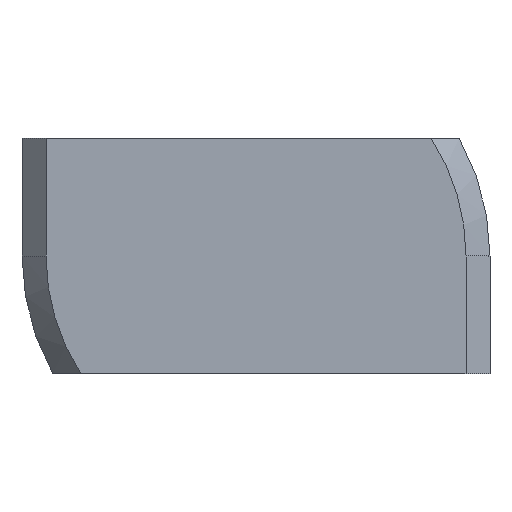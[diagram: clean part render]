
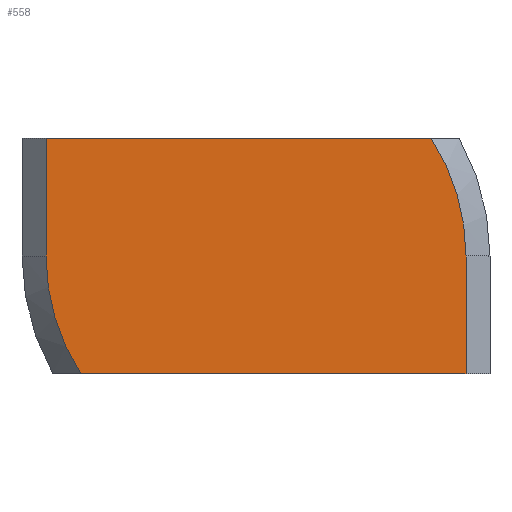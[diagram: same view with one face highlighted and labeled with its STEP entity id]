
A CAD part, front view. The second image highlights one B-rep face of the part: STEP entity #558.
In plain terms, the highlighted planar face has unit normal (0, -1, 0).
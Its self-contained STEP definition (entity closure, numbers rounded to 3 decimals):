
#141=CARTESIAN_POINT('',(0.25,-5.5,0.));
#142=DIRECTION('',(0.,1.,0.));
#143=DIRECTION('',(-0.839,0.,-0.544));
#144=AXIS2_PLACEMENT_3D('',#141,#142,#143);
#158=DIRECTION('',(1.,0.,0.));
#159=VECTOR('',#158,16.049);
#160=CARTESIAN_POINT('',(-7.299,-5.5,-4.9));
#161=LINE('',#160,#159);
#162=DIRECTION('',(-1.,0.,0.));
#163=VECTOR('',#162,16.049);
#164=CARTESIAN_POINT('',(7.299,-5.5,4.9));
#165=LINE('',#164,#163);
#166=DIRECTION('',(0.,0.,-1.));
#167=VECTOR('',#166,4.9);
#168=CARTESIAN_POINT('',(-8.75,-5.5,4.9));
#169=LINE('',#168,#167);
#190=CARTESIAN_POINT('',(-0.25,-5.5,0.));
#191=DIRECTION('',(0.,1.,0.));
#192=DIRECTION('',(0.839,0.,0.544));
#193=AXIS2_PLACEMENT_3D('',#190,#191,#192);
#215=DIRECTION('',(0.,0.,1.));
#216=VECTOR('',#215,4.9);
#217=CARTESIAN_POINT('',(8.75,-5.5,-4.9));
#218=LINE('',#217,#216);
#295=CARTESIAN_POINT('',(7.299,-5.5,4.9));
#296=CARTESIAN_POINT('',(8.75,-5.5,0.));
#297=VERTEX_POINT('',#295);
#298=VERTEX_POINT('',#296);
#303=CARTESIAN_POINT('',(8.75,-5.5,-4.9));
#304=VERTEX_POINT('',#303);
#307=CARTESIAN_POINT('',(-7.299,-5.5,-4.9));
#308=CARTESIAN_POINT('',(-8.75,-5.5,0.));
#309=VERTEX_POINT('',#307);
#310=VERTEX_POINT('',#308);
#315=CARTESIAN_POINT('',(-8.75,-5.5,4.9));
#316=VERTEX_POINT('',#315);
#542=CARTESIAN_POINT('',(0.,-5.5,0.));
#543=DIRECTION('',(0.,-1.,0.));
#544=DIRECTION('',(1.,0.,0.));
#545=AXIS2_PLACEMENT_3D('',#542,#543,#544);
#546=PLANE('',#545);
#547=ORIENTED_EDGE('',*,*,#499,.F.);
#548=ORIENTED_EDGE('',*,*,#533,.T.);
#550=ORIENTED_EDGE('',*,*,#549,.F.);
#551=ORIENTED_EDGE('',*,*,#437,.F.);
#553=ORIENTED_EDGE('',*,*,#552,.T.);
#555=ORIENTED_EDGE('',*,*,#554,.F.);
#556=EDGE_LOOP('',(#547,#548,#550,#551,#553,#555));
#557=FACE_OUTER_BOUND('',#556,.F.);
#558=ADVANCED_FACE('',(#557),#546,.T.);
#145=CIRCLE('',#144,9.);
#194=CIRCLE('',#193,9.);
#437=EDGE_CURVE('',#297,#316,#165,.T.);
#499=EDGE_CURVE('',#309,#304,#161,.T.);
#533=EDGE_CURVE('',#309,#310,#145,.T.);
#549=EDGE_CURVE('',#316,#310,#169,.T.);
#552=EDGE_CURVE('',#297,#298,#194,.T.);
#554=EDGE_CURVE('',#304,#298,#218,.T.);
